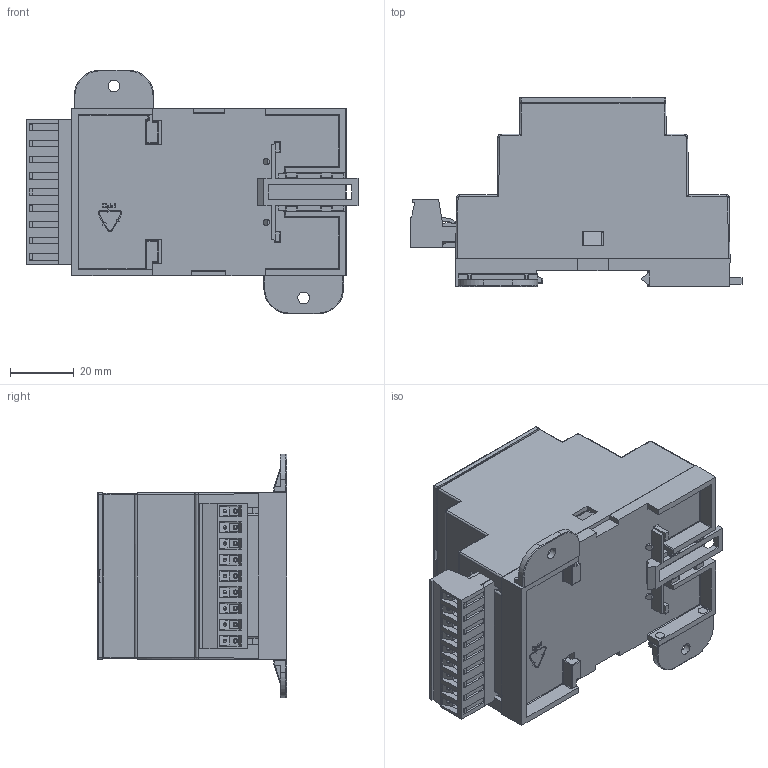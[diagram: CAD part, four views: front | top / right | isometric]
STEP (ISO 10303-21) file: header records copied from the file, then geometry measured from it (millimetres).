
FILE_DESCRIPTION (( 'STEP AP203' ), '1' );
FILE_NAME ('00014692.STEP', '2018-01-17T12:36:55', ( 'cc-it' ), ( '' ), 'SwSTEP 2.0', 'SolidWorks 2017', '' );
FILE_SCHEMA (( 'CONFIG_CONTROL_DESIGN' ));
Length unit declared in the file: millimetre
Products named in the file (12): 00012963 - Stiftleiste, Stecker, Raster 5.08, 9 Pole; 00015083 - Platine A, f黵 Unterteil, Raster 5.08; 00014685 - Oberteil, Stiftleisten, Ausf. II_Version II; 00014711 - Horizontale Platine f黵 das Oberteil; 00009529 - Unterteil, 3 Module; 00010355 - Vertikale Platine f黵 das Oberteil; 00006928 - Rastclip f黵 Unterteil, 2 u. 3 Module; 00014692; 00009501 - Deckel, 3 Module, RT 52; 00010331 - Wandhalter; 00007864 - Liko-Schraube 2.5x6 Arnold Plastide 45 KS Z (PZ1) blau verz.; 00012956 - Stiftleiste, Platine, Raster 5.08, 9 Pole
Assembly tree (12 placements, depth 2):
  00014692
    00014685 - Oberteil, Stiftleisten, Ausf. II_Version II
    00009529 - Unterteil, 3 Module
    00006928 - Rastclip f黵 Unterteil, 2 u. 3 Module
    00009501 - Deckel, 3 Module, RT 52
    00010331 - Wandhalter  x2
    00007864 - Liko-Schraube 2.5x6 Arnold Plastide 45 KS Z (PZ1) blau verz.
    00012956 - Stiftleiste, Platine, Raster 5.08, 9 Pole
    00012963 - Stiftleiste, Stecker, Raster 5.08, 9 Pole
    00015083 - Platine A, f黵 Unterteil, Raster 5.08
    00014711 - Horizontale Platine f黵 das Oberteil
    00010355 - Vertikale Platine f黵 das Oberteil
Bounding box: 104.07 x 59.4 x 76.43 mm (x, y, z)
Volume: 63261 mm3; surface area: 81045.3 mm2
Topology: 30 solids, 30 shells, 2241 faces, 5962 edges, 3824 vertices
Faces by surface type: plane 1468, cylinder 463, bspline 210, sphere 69, cone 22, torus 9
Entity records: 76699 total; most frequent: CARTESIAN_POINT 22206, ORIENTED_EDGE 11532, DIRECTION 10121, EDGE_CURVE 5766, VECTOR 4255, LINE 4255, VERTEX_POINT 3728, AXIS2_PLACEMENT_3D 2933
